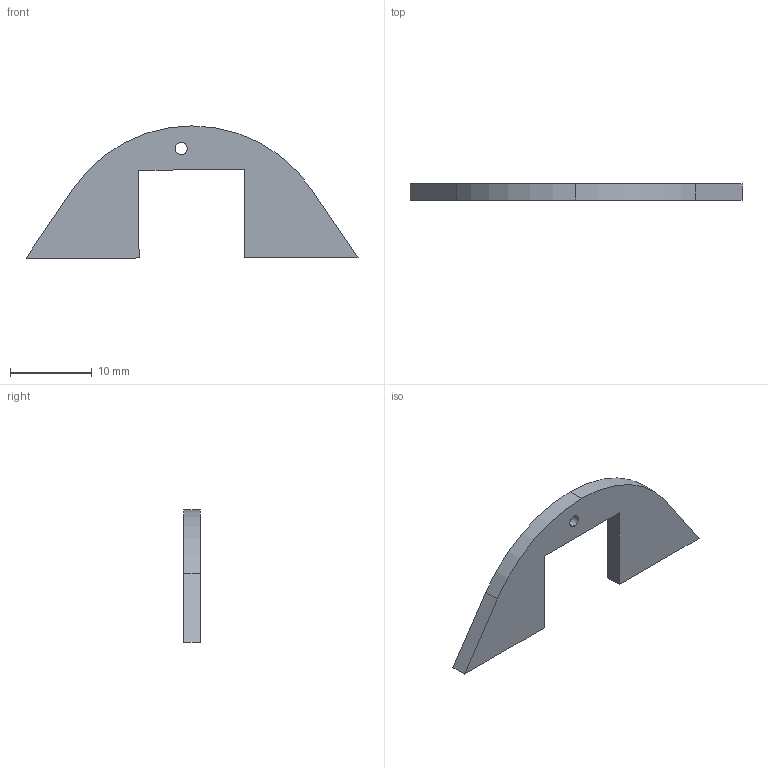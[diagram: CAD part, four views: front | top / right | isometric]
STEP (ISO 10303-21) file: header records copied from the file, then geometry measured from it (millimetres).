
FILE_DESCRIPTION(('STEP AP214'),'1');
FILE_NAME('tmp0.step','2025-04-27T19:22:47',(' '),(' '),'Spatial InterOp 3D',' ',' ');
FILE_SCHEMA(('AUTOMOTIVE_DESIGN { 1 0 10303 214 1 1 1 1 }'));
Length unit declared in the file: millimetre
Products named in the file (1): 1
Bounding box: 40.73 x 2 x 16.22 mm (x, y, z)
Volume: 626.3 mm3; surface area: 870.1 mm2
Topology: 1 solids, 1 shells, 13 faces, 33 edges, 22 vertices
Faces by surface type: plane 9, cylinder 4
Entity records: 424 total; most frequent: CARTESIAN_POINT 69, DIRECTION 69, ORIENTED_EDGE 66, EDGE_CURVE 33, LINE 25, VECTOR 25, AXIS2_PLACEMENT_3D 22, VERTEX_POINT 22
